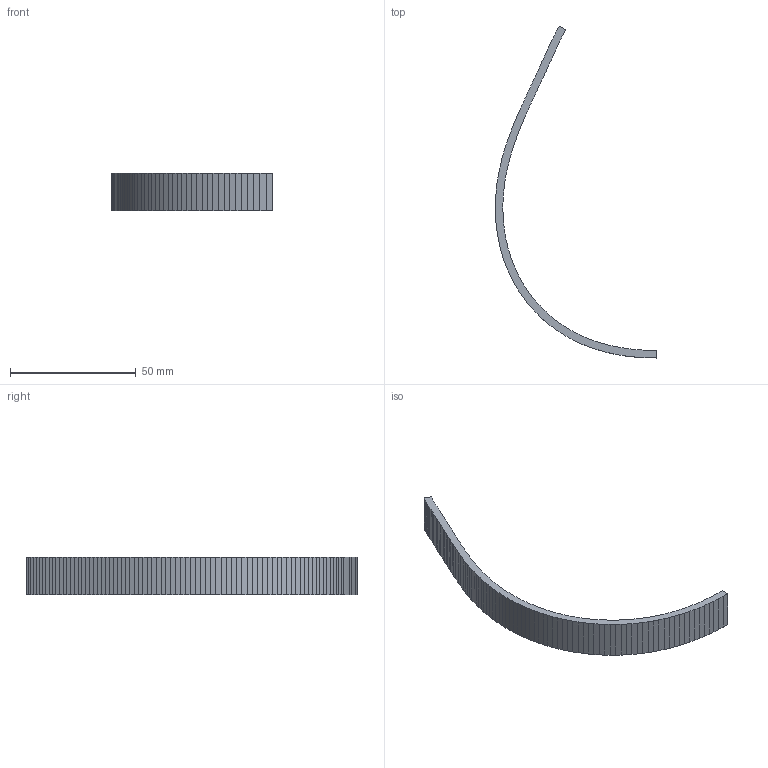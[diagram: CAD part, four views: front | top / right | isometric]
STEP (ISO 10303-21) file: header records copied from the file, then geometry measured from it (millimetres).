
FILE_DESCRIPTION(('Open CASCADE Model'),'2;1');
FILE_NAME('Open CASCADE Shape Model','2026-10-04T02:31:34',('Author'),( 'Open CASCADE'),'Open CASCADE STEP processor 8.0','Open CASCADE 8.0' ,'Unknown');
FILE_SCHEMA(('AUTOMOTIVE_DESIGN { 1 0 10303 214 1 1 1 1 }'));
Length unit declared in the file: millimetre
Products named in the file (1): Open CASCADE STEP translator 8.0 30
Bounding box: 64.14 x 132.05 x 15 mm (x, y, z)
Volume: 7775.2 mm3; surface area: 6310.6 mm2
Topology: 1 solids, 1 shells, 184 faces, 546 edges, 364 vertices
Faces by surface type: plane 184
Entity records: 13138 total; most frequent: CARTESIAN_POINT 2187, DIRECTION 2008, LINE 1638, VECTOR 1638, ORIENTED_EDGE 1092, PCURVE 1092, DEFINITIONAL_REPRESENTATION 1092, EDGE_CURVE 546
